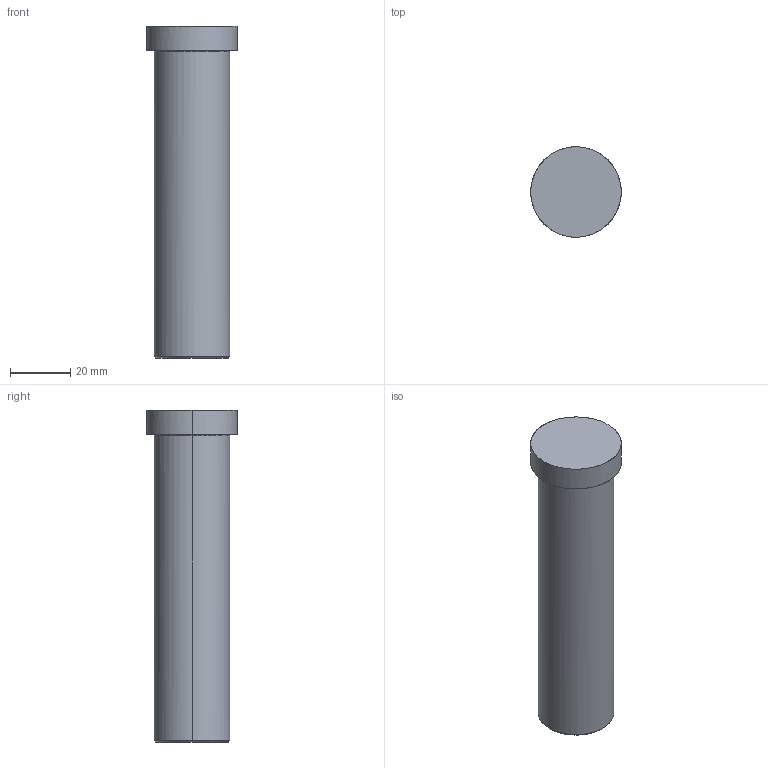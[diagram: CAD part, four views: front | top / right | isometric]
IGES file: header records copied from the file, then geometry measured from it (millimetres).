
Global section: file name: E:\UnigraphicsGraphicData\MISUMI_PRESS-PARTS\IGES\3d_hcup25-110_01341_r00.igs; native system: NX V5.0; preprocessor: UGS NX IGES V5.0; author: MISUMI; date: 20110105.160934; units: millimetre
Bounding box: 30 x 30 x 110 mm (x, y, z)
Surface area: 10140.3 mm2 (no closed solid volume)
Topology: 0 solids, 0 shells, 11 faces, 88 edges, 88 vertices
Faces by surface type: bspline 11
